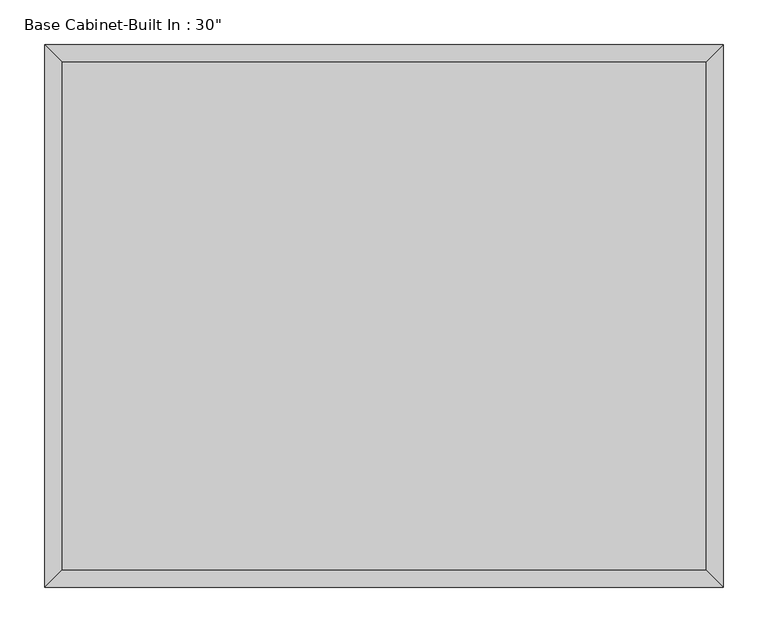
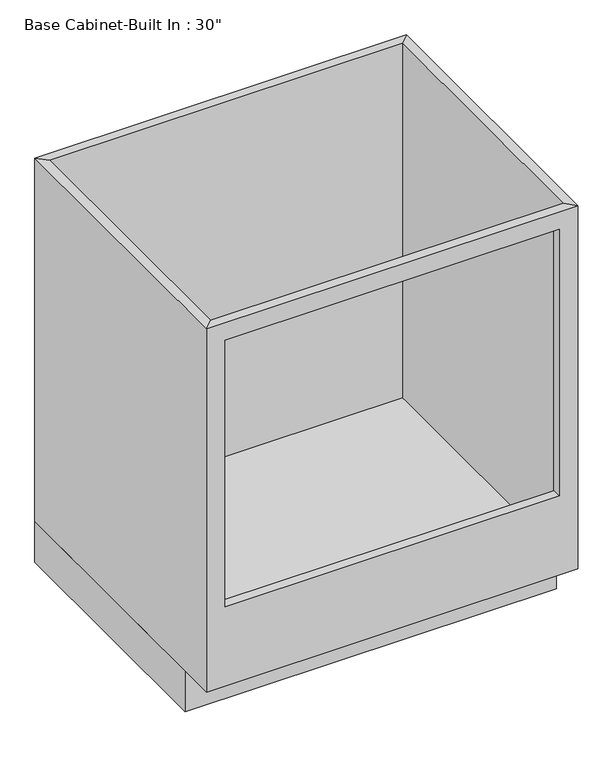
"""IFC4 building model written with IfcOpenShell, lengths in millimetres: furniture geometry."""

from ifc_helpers import new_model, si_unit, frame, origin, origin_with_axes, place, context, project, spatial, polyline, outline, extrude, faceted_brep, source, transform, mapped, element, save


def furniture_6a9dd669(model_context):
    return source(origin(), model_context, "Body", "SolidModel", [
        extrude(outline(polyline([(380.6877049, -19.05), (380.6877049, -590.55), (-343.2122951, -590.55), (-343.2122951, -19.05), (380.6877049, -19.05)])), frame((0.0, 0.0, 88.9), z_axis=(0.0, 0.0, 1.0), x_axis=(1.0, 0.0, 0.0)), (0.0, 0.0, 1.0), 19.05),
        faceted_brep([(380.6877049, -590.55, 876.3), (380.6877049, -590.55, 88.9), (-343.2122951, -590.55, 88.9), (-343.2122951, -590.55, 876.3), (361.6377049, -590.55, 260.35), (361.6377049, -590.55, 838.2), (-324.1622951, -590.55, 838.2), (-324.1622951, -590.55, 260.35), (-362.2622951, -609.6, 876.3), (399.7377049, -609.6, 876.3), (-362.2622951, -609.6, 88.9), (399.7377049, -609.6, 88.9), (361.6377049, -609.6, 838.2), (361.6377049, -609.6, 260.35), (-324.1622951, -609.6, 260.35), (-324.1622951, -609.6, 838.2), (-343.2122951, -19.05, 88.9), (-343.2122951, -19.05, 876.3), (-362.2622951, 0.0, 876.3), (-362.2622951, 0.0, 88.9), (380.6877049, -19.05, 88.9), (380.6877049, -19.05, 876.3), (399.7377049, 0.0, 876.3), (399.7377049, 0.0, 88.9)], [[[0, 1, 2, 3], [4, 5, 6, 7]], [[0, 3, 8, 9]], [[9, 8, 10, 11], [12, 13, 14, 15]], [[2, 1, 11, 10]], [[3, 2, 16, 17]], [[8, 3, 17, 18]], [[10, 8, 18, 19]], [[2, 10, 19, 16]], [[17, 16, 20, 21]], [[18, 17, 21, 22]], [[19, 18, 22, 23]], [[16, 19, 23, 20]], [[1, 0, 21, 20]], [[0, 9, 22, 21]], [[9, 11, 23, 22]], [[11, 1, 20, 23]], [[12, 5, 4, 13]], [[5, 12, 15, 6]], [[6, 15, 14, 7]], [[13, 4, 7, 14]]]),
        extrude(outline(polyline([(399.7377049, 0.0), (399.7377049, -533.4), (-362.2622951, -533.4), (-362.2622951, 0.0), (399.7377049, 0.0)])), origin_with_axes(), (0.0, 0.0, 1.0), 88.9),
    ])


if __name__ == "__main__":
    model = new_model("IFC4")
    model_context = context("Model", 3, world=origin())
    ifc_project = project(units=[si_unit("LENGTHUNIT", "METRE", prefix="MILLI")], contexts=[model_context])
    site = spatial("IfcSite", under=ifc_project)
    building = spatial("IfcBuilding", under=site)
    placement = place(None, origin())
    furniture_shape = furniture_6a9dd669(model_context)
    element("IfcFurniture", 1, ObjectType="Base Cabinet-Built In : 30\"", at=placement, inside=building, context=model_context, shape_type="MappedRepresentation", body=[
        mapped(furniture_shape, transform((0.0, 0.0, 0.0), x_axis=(1.0, 0.0, 0.0), y_axis=(0.0, 1.0, 0.0), z_axis=(0.0, 0.0, 1.0))),
    ])
    save(model, "model.ifc")
